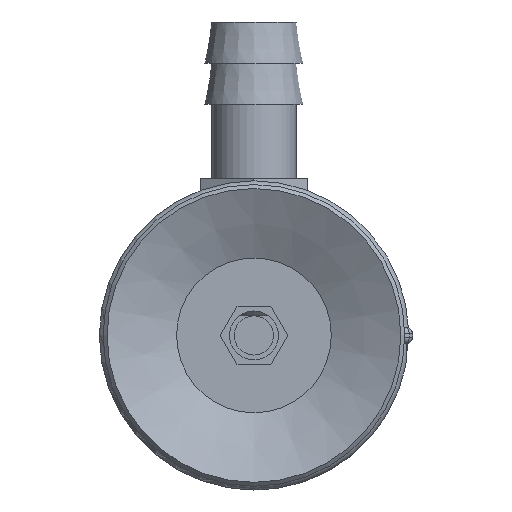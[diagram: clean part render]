
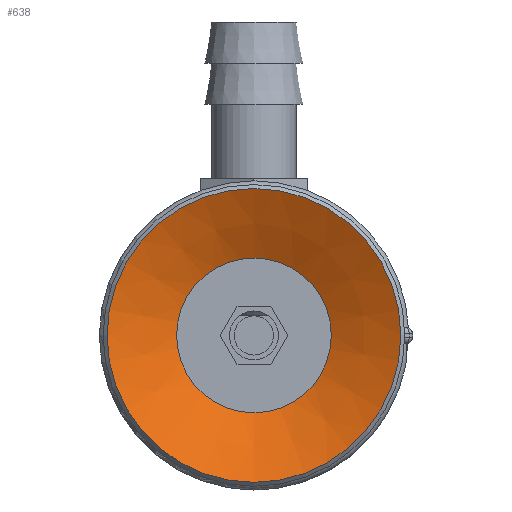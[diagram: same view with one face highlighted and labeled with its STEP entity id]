
A CAD part, front view. The second image highlights one B-rep face of the part: STEP entity #638.
In plain terms, the highlighted conical face has half-angle 64 degrees and reference radius 3.95 mm.
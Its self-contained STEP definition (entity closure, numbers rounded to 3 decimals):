
#638=ADVANCED_FACE('',(#967,#968),#969,.F.);
#967=FACE_BOUND('',#1439,.T.);
#968=FACE_OUTER_BOUND('',#1440,.T.);
#969=CONICAL_SURFACE('',#1441,3.95,1.117);
#1439=EDGE_LOOP('',(#2297));
#1440=EDGE_LOOP('',(#2298));
#1441=AXIS2_PLACEMENT_3D('',#2299,#2300,#2301);
#2297=ORIENTED_EDGE('',*,*,#2645,.F.);
#2298=ORIENTED_EDGE('',*,*,#2616,.T.);
#2299=CARTESIAN_POINT('',(0.0,-29.404,-47.168));
#2300=DIRECTION('',(-0.0,0.,1.0));
#2301=DIRECTION('',(0.0,-1.0,0.));
#2616=EDGE_CURVE('',#3007,#3007,#3008,.T.);
#2645=EDGE_CURVE('',#3053,#3053,#3054,.T.);
#3007=VERTEX_POINT('',#3819);
#3008=CIRCLE('',#3820,7.5);
#3053=VERTEX_POINT('',#3887);
#3054=CIRCLE('',#3888,3.95);
#3819=CARTESIAN_POINT('',(0.0,-36.904,-45.437));
#3820=AXIS2_PLACEMENT_3D('',#4257,#4258,#4259);
#3887=CARTESIAN_POINT('',(0.0,-33.354,-47.168));
#3888=AXIS2_PLACEMENT_3D('',#4329,#4330,#4331);
#4257=CARTESIAN_POINT('',(0.0,-29.404,-45.437));
#4258=DIRECTION('',(0.0,0.,1.0));
#4259=DIRECTION('',(0.0,-1.0,0.));
#4329=CARTESIAN_POINT('',(0.0,-29.404,-47.168));
#4330=DIRECTION('',(0.0,0.,1.0));
#4331=DIRECTION('',(0.0,-1.0,0.));
